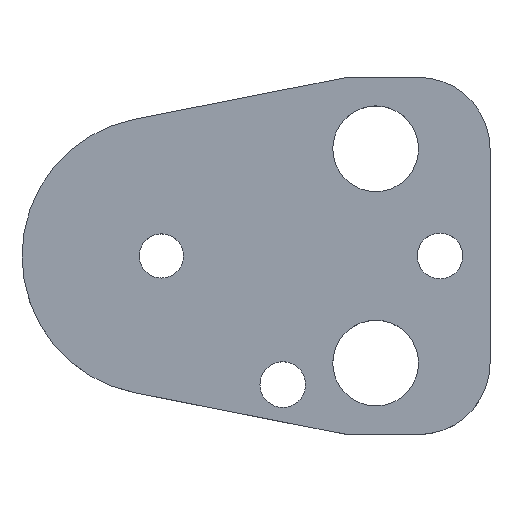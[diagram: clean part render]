
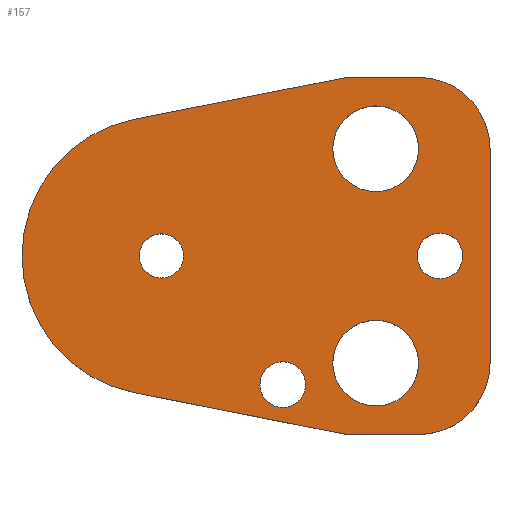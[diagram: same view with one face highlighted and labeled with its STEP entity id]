
A CAD part, top view. The second image highlights one B-rep face of the part: STEP entity #157.
In plain terms, the highlighted planar face has unit normal (0, 0, 1).
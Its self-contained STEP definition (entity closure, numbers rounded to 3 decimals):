
#103=FACE_BOUND('',#207,.T.);
#104=FACE_BOUND('',#208,.T.);
#105=FACE_BOUND('',#209,.T.);
#106=FACE_BOUND('',#210,.T.);
#107=FACE_BOUND('',#211,.T.);
#108=FACE_BOUND('',#212,.T.);
#122=CIRCLE('',#480,10.);
#124=CIRCLE('',#484,10.);
#127=CIRCLE('',#490,19.5);
#138=CIRCLE('',#503,3.2);
#139=CIRCLE('',#504,3.2);
#140=CIRCLE('',#505,6.);
#141=CIRCLE('',#506,6.);
#142=CIRCLE('',#507,6.);
#143=CIRCLE('',#508,6.);
#144=CIRCLE('',#509,3.2);
#145=CIRCLE('',#510,3.2);
#146=CIRCLE('',#511,3.1);
#147=CIRCLE('',#512,3.1);
#157=ADVANCED_FACE('',(#103,#104,#105,#106,#107,#108),#174,.T.);
#174=PLANE('',#513);
#207=EDGE_LOOP('',(#273,#274,#275,#276,#277,#278,#279,#280));
#208=EDGE_LOOP('',(#281,#282));
#209=EDGE_LOOP('',(#283,#284));
#210=EDGE_LOOP('',(#285,#286));
#211=EDGE_LOOP('',(#287,#288));
#212=EDGE_LOOP('',(#289,#290));
#273=ORIENTED_EDGE('',*,*,#368,.T.);
#274=ORIENTED_EDGE('',*,*,#372,.T.);
#275=ORIENTED_EDGE('',*,*,#375,.T.);
#276=ORIENTED_EDGE('',*,*,#378,.T.);
#277=ORIENTED_EDGE('',*,*,#381,.T.);
#278=ORIENTED_EDGE('',*,*,#384,.T.);
#279=ORIENTED_EDGE('',*,*,#387,.T.);
#280=ORIENTED_EDGE('',*,*,#390,.T.);
#281=ORIENTED_EDGE('',*,*,#401,.T.);
#282=ORIENTED_EDGE('',*,*,#402,.T.);
#283=ORIENTED_EDGE('',*,*,#403,.T.);
#284=ORIENTED_EDGE('',*,*,#404,.T.);
#285=ORIENTED_EDGE('',*,*,#405,.T.);
#286=ORIENTED_EDGE('',*,*,#406,.T.);
#287=ORIENTED_EDGE('',*,*,#407,.T.);
#288=ORIENTED_EDGE('',*,*,#408,.T.);
#289=ORIENTED_EDGE('',*,*,#409,.T.);
#290=ORIENTED_EDGE('',*,*,#410,.T.);
#332=VERTEX_POINT('',#649);
#333=VERTEX_POINT('',#651);
#336=VERTEX_POINT('',#658);
#338=VERTEX_POINT('',#664);
#340=VERTEX_POINT('',#670);
#342=VERTEX_POINT('',#676);
#344=VERTEX_POINT('',#682);
#346=VERTEX_POINT('',#688);
#357=VERTEX_POINT('',#717);
#358=VERTEX_POINT('',#718);
#359=VERTEX_POINT('',#721);
#360=VERTEX_POINT('',#722);
#361=VERTEX_POINT('',#725);
#362=VERTEX_POINT('',#726);
#363=VERTEX_POINT('',#729);
#364=VERTEX_POINT('',#730);
#365=VERTEX_POINT('',#733);
#366=VERTEX_POINT('',#734);
#368=EDGE_CURVE('',#333,#332,#422,.T.);
#372=EDGE_CURVE('',#332,#336,#426,.T.);
#375=EDGE_CURVE('',#336,#338,#122,.T.);
#378=EDGE_CURVE('',#338,#340,#430,.T.);
#381=EDGE_CURVE('',#340,#342,#124,.T.);
#384=EDGE_CURVE('',#342,#344,#434,.T.);
#387=EDGE_CURVE('',#344,#346,#437,.T.);
#390=EDGE_CURVE('',#346,#333,#127,.T.);
#401=EDGE_CURVE('',#357,#358,#138,.T.);
#402=EDGE_CURVE('',#358,#357,#139,.T.);
#403=EDGE_CURVE('',#359,#360,#140,.T.);
#404=EDGE_CURVE('',#360,#359,#141,.T.);
#405=EDGE_CURVE('',#361,#362,#142,.T.);
#406=EDGE_CURVE('',#362,#361,#143,.T.);
#407=EDGE_CURVE('',#363,#364,#144,.T.);
#408=EDGE_CURVE('',#364,#363,#145,.T.);
#409=EDGE_CURVE('',#365,#366,#146,.T.);
#410=EDGE_CURVE('',#366,#365,#147,.T.);
#422=LINE('',#650,#450);
#426=LINE('',#659,#454);
#430=LINE('',#671,#458);
#434=LINE('',#683,#462);
#437=LINE('',#689,#465);
#450=VECTOR('',#527,1.);
#454=VECTOR('',#533,1.);
#458=VECTOR('',#545,1.);
#462=VECTOR('',#557,1.);
#465=VECTOR('',#562,1.);
#480=AXIS2_PLACEMENT_3D('',#665,#538,#539);
#484=AXIS2_PLACEMENT_3D('',#677,#550,#551);
#490=AXIS2_PLACEMENT_3D('',#693,#568,#569);
#503=AXIS2_PLACEMENT_3D('',#716,#594,#595);
#504=AXIS2_PLACEMENT_3D('',#719,#596,#597);
#505=AXIS2_PLACEMENT_3D('',#720,#598,#599);
#506=AXIS2_PLACEMENT_3D('',#723,#600,#601);
#507=AXIS2_PLACEMENT_3D('',#724,#602,#603);
#508=AXIS2_PLACEMENT_3D('',#727,#604,#605);
#509=AXIS2_PLACEMENT_3D('',#728,#606,#607);
#510=AXIS2_PLACEMENT_3D('',#731,#608,#609);
#511=AXIS2_PLACEMENT_3D('',#732,#610,#611);
#512=AXIS2_PLACEMENT_3D('',#735,#612,#613);
#513=AXIS2_PLACEMENT_3D('',#736,#614,#615);
#527=DIRECTION('',(0.981,-0.193,0.));
#533=DIRECTION('',(1.,0.,0.));
#538=DIRECTION('',(0.,0.,1.));
#539=DIRECTION('',(-0.707,0.707,0.));
#545=DIRECTION('',(0.,1.,0.));
#550=DIRECTION('',(0.,0.,1.));
#551=DIRECTION('',(-0.707,-0.707,0.));
#557=DIRECTION('',(-1.,0.,0.));
#562=DIRECTION('',(-0.981,-0.193,0.));
#568=DIRECTION('',(0.,0.,1.));
#569=DIRECTION('',(1.,0.,0.));
#594=DIRECTION('',(0.,0.,-1.));
#595=DIRECTION('',(-1.,0.,0.));
#596=DIRECTION('',(0.,0.,-1.));
#597=DIRECTION('',(1.,0.,0.));
#598=DIRECTION('',(0.,0.,-1.));
#599=DIRECTION('',(-1.,0.,0.));
#600=DIRECTION('',(0.,0.,-1.));
#601=DIRECTION('',(1.,0.,0.));
#602=DIRECTION('',(0.,0.,-1.));
#603=DIRECTION('',(-1.,0.,0.));
#604=DIRECTION('',(0.,0.,-1.));
#605=DIRECTION('',(1.,0.,0.));
#606=DIRECTION('',(0.,0.,-1.));
#607=DIRECTION('',(-1.,0.,0.));
#608=DIRECTION('',(0.,0.,-1.));
#609=DIRECTION('',(1.,0.,0.));
#610=DIRECTION('',(0.,0.,-1.));
#611=DIRECTION('',(-1.,0.,0.));
#612=DIRECTION('',(0.,0.,-1.));
#613=DIRECTION('',(1.,0.,0.));
#614=DIRECTION('',(0.,0.,1.));
#615=DIRECTION('',(0.981,-0.193,0.));
#649=CARTESIAN_POINT('',(26.,-25.,8.));
#650=CARTESIAN_POINT('',(26.,-25.,8.));
#651=CARTESIAN_POINT('',(-3.771,-19.132,8.));
#658=CARTESIAN_POINT('',(36.,-25.,8.));
#659=CARTESIAN_POINT('',(26.,-25.,8.));
#664=CARTESIAN_POINT('',(46.,-15.,8.));
#665=CARTESIAN_POINT('',(36.,-15.,8.));
#670=CARTESIAN_POINT('',(46.,15.,8.));
#671=CARTESIAN_POINT('',(46.,15.,8.));
#676=CARTESIAN_POINT('',(36.,25.,8.));
#677=CARTESIAN_POINT('',(36.,15.,8.));
#682=CARTESIAN_POINT('',(26.,25.,8.));
#683=CARTESIAN_POINT('',(26.,25.,8.));
#688=CARTESIAN_POINT('',(-3.771,19.132,8.));
#689=CARTESIAN_POINT('',(26.,25.,8.));
#693=CARTESIAN_POINT('',(0.,0.,8.));
#716=CARTESIAN_POINT('',(39.,0.,8.));
#717=CARTESIAN_POINT('',(39.,3.2,8.));
#718=CARTESIAN_POINT('',(39.,-3.2,8.));
#719=CARTESIAN_POINT('',(39.,0.,8.));
#720=CARTESIAN_POINT('',(30.,15.,8.));
#721=CARTESIAN_POINT('',(30.,21.,8.));
#722=CARTESIAN_POINT('',(30.,9.,8.));
#723=CARTESIAN_POINT('',(30.,15.,8.));
#724=CARTESIAN_POINT('',(30.,-15.,8.));
#725=CARTESIAN_POINT('',(30.,-9.,8.));
#726=CARTESIAN_POINT('',(30.,-21.,8.));
#727=CARTESIAN_POINT('',(30.,-15.,8.));
#728=CARTESIAN_POINT('',(17.,-18.,8.));
#729=CARTESIAN_POINT('',(17.,-14.8,8.));
#730=CARTESIAN_POINT('',(17.,-21.2,8.));
#731=CARTESIAN_POINT('',(17.,-18.,8.));
#732=CARTESIAN_POINT('',(0.,0.,8.));
#733=CARTESIAN_POINT('',(0.,3.1,8.));
#734=CARTESIAN_POINT('',(0.,-3.1,8.));
#735=CARTESIAN_POINT('',(0.,0.,8.));
#736=CARTESIAN_POINT('',(-3.771,-19.132,8.));
